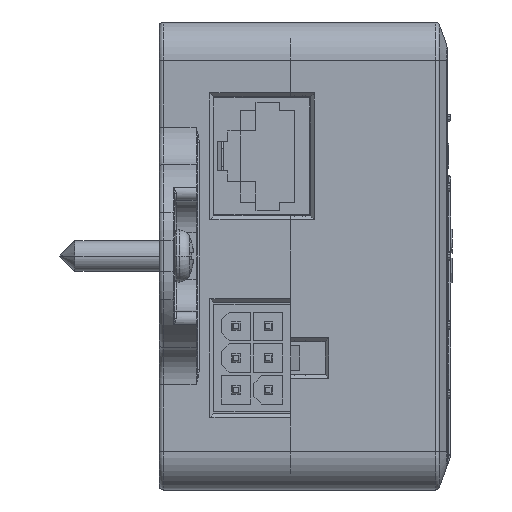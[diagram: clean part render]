
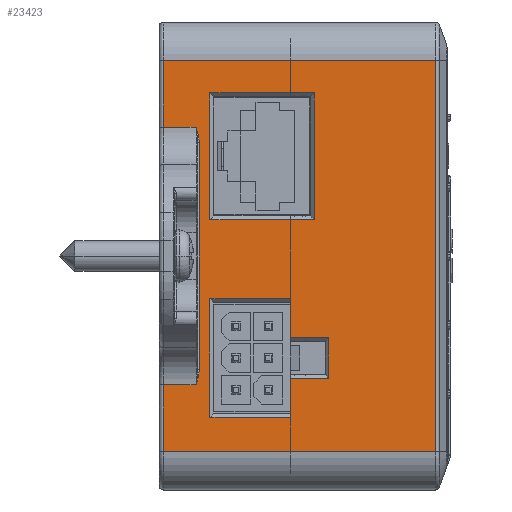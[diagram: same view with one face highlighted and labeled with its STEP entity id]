
A CAD part, left-side view. The second image highlights one B-rep face of the part: STEP entity #23423.
In plain terms, the highlighted planar face has unit normal (-1, 0, 0).
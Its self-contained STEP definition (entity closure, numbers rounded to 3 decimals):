
#929=DIRECTION('',(0.,0.,-1.));
#930=VECTOR('',#929,5.1);
#931=CARTESIAN_POINT('',(10.25,2.283,-40.55));
#932=LINE('',#931,#930);
#945=DIRECTION('',(0.,-1.,0.));
#946=VECTOR('',#945,10.5);
#947=CARTESIAN_POINT('',(10.25,12.783,-40.55));
#948=LINE('',#947,#946);
#953=DIRECTION('',(0.,0.,1.));
#954=VECTOR('',#953,15.5);
#955=CARTESIAN_POINT('',(10.25,12.783,-56.05));
#956=LINE('',#955,#954);
#1893=DIRECTION('',(0.,1.,0.));
#1894=VECTOR('',#1893,10.5);
#1895=CARTESIAN_POINT('',(10.25,2.283,-56.05));
#1896=LINE('',#1895,#1894);
#1901=DIRECTION('',(0.,0.,1.));
#1902=VECTOR('',#1901,5.1);
#1903=CARTESIAN_POINT('',(10.25,2.283,-56.05));
#1904=LINE('',#1903,#1902);
#1905=DIRECTION('',(0.,-1.,0.));
#1906=VECTOR('',#1905,16.6);
#1907=CARTESIAN_POINT('',(10.25,18.883,-9.5));
#1908=LINE('',#1907,#1906);
#1913=DIRECTION('',(0.,1.,0.));
#1914=VECTOR('',#1913,5.);
#1915=CARTESIAN_POINT('',(10.25,-2.717,-50.95));
#1916=LINE('',#1915,#1914);
#2001=DIRECTION('',(0.,-1.,0.));
#2002=VECTOR('',#2001,5.);
#2003=CARTESIAN_POINT('',(10.25,2.283,-45.65));
#2004=LINE('',#2003,#2002);
#2005=DIRECTION('',(0.,0.,-1.));
#2006=VECTOR('',#2005,5.3);
#2007=CARTESIAN_POINT('',(10.25,-2.717,-45.65));
#2008=LINE('',#2007,#2006);
#7942=DIRECTION('',(0.,-1.,0.));
#7943=VECTOR('',#7942,13.6);
#7944=CARTESIAN_POINT('',(10.25,12.783,-13.75));
#7945=LINE('',#7944,#7943);
#7950=DIRECTION('',(0.,0.,1.));
#7951=VECTOR('',#7950,16.5);
#7952=CARTESIAN_POINT('',(10.25,12.783,-30.25));
#7953=LINE('',#7952,#7951);
#8690=DIRECTION('',(0.,1.,0.));
#8691=VECTOR('',#8690,13.6);
#8692=CARTESIAN_POINT('',(10.25,-0.817,-30.25));
#8693=LINE('',#8692,#8691);
#8694=DIRECTION('',(0.,0.,-1.));
#8695=VECTOR('',#8694,16.5);
#8696=CARTESIAN_POINT('',(10.25,-0.817,-13.75));
#8697=LINE('',#8696,#8695);
#8727=DIRECTION('',(0.,-1.,0.));
#8728=VECTOR('',#8727,16.6);
#8729=CARTESIAN_POINT('',(10.25,18.883,-60.5));
#8730=LINE('',#8729,#8728);
#8731=DIRECTION('',(0.,-1.,0.));
#8732=VECTOR('',#8731,18.912);
#8733=CARTESIAN_POINT('',(10.25,2.283,-60.5));
#8734=LINE('',#8733,#8732);
#8955=DIRECTION('',(0.,1.,0.));
#8956=VECTOR('',#8955,18.912);
#8957=CARTESIAN_POINT('',(10.25,-16.629,-9.5));
#8958=LINE('',#8957,#8956);
#8973=DIRECTION('',(0.,0.,-1.));
#8974=VECTOR('',#8973,8.729);
#8975=CARTESIAN_POINT('',(10.25,18.883,-9.5));
#8976=LINE('',#8975,#8974);
#9001=DIRECTION('',(0.,-1.,0.));
#9002=VECTOR('',#9001,4.3);
#9003=CARTESIAN_POINT('',(10.25,18.883,-18.23));
#9004=LINE('',#9003,#9002);
#9014=CARTESIAN_POINT('',(10.25,14.583,-18.23));
#9032=CARTESIAN_POINT('',(10.25,14.583,-18.23));
#9033=CARTESIAN_POINT('',(10.25,14.506,-18.482));
#9034=CARTESIAN_POINT('',(10.25,14.373,-18.967));
#9035=CARTESIAN_POINT('',(10.25,14.225,-19.612));
#9036=CARTESIAN_POINT('',(10.25,14.188,-20.028));
#9037=CARTESIAN_POINT('',(10.25,14.183,-20.23));
#9044=DIRECTION('',(0.,0.,-1.));
#9045=VECTOR('',#9044,29.541);
#9046=CARTESIAN_POINT('',(10.25,14.183,-20.23));
#9047=LINE('',#9046,#9045);
#9101=CARTESIAN_POINT('',(10.25,14.583,-51.771));
#9108=CARTESIAN_POINT('',(10.25,14.183,-49.771));
#9109=CARTESIAN_POINT('',(10.25,14.189,-49.975));
#9110=CARTESIAN_POINT('',(10.25,14.226,-50.395));
#9111=CARTESIAN_POINT('',(10.25,14.366,-51.004));
#9112=CARTESIAN_POINT('',(10.25,14.503,-51.505));
#9113=CARTESIAN_POINT('',(10.25,14.583,-51.771));
#9120=DIRECTION('',(0.,1.,0.));
#9121=VECTOR('',#9120,4.3);
#9122=CARTESIAN_POINT('',(10.25,14.583,-51.771));
#9123=LINE('',#9122,#9121);
#9134=DIRECTION('',(0.,0.,-1.));
#9135=VECTOR('',#9134,8.729);
#9136=CARTESIAN_POINT('',(10.25,18.883,-51.771));
#9137=LINE('',#9136,#9135);
#12575=DIRECTION('',(0.,0.,1.));
#12576=VECTOR('',#12575,51.);
#12577=CARTESIAN_POINT('',(10.25,-16.629,-60.5));
#12578=LINE('',#12577,#12576);
#17543=CARTESIAN_POINT('',(10.25,-0.817,-13.75));
#17544=VERTEX_POINT('',#17543);
#17545=CARTESIAN_POINT('',(10.25,2.283,-45.65));
#17546=CARTESIAN_POINT('',(10.25,-2.717,-45.65));
#17547=VERTEX_POINT('',#17545);
#17548=VERTEX_POINT('',#17546);
#17557=CARTESIAN_POINT('',(10.25,-2.717,-50.95));
#17558=VERTEX_POINT('',#17557);
#17559=CARTESIAN_POINT('',(10.25,2.283,-50.95));
#17560=VERTEX_POINT('',#17559);
#17953=CARTESIAN_POINT('',(10.25,-0.817,-30.25));
#17954=VERTEX_POINT('',#17953);
#17991=CARTESIAN_POINT('',(10.25,-16.629,-9.5));
#17993=VERTEX_POINT('',#17991);
#18013=CARTESIAN_POINT('',(10.25,-16.629,-60.5));
#18014=VERTEX_POINT('',#18013);
#18312=CARTESIAN_POINT('',(10.25,18.883,-9.5));
#18313=VERTEX_POINT('',#18312);
#18314=CARTESIAN_POINT('',(10.25,12.783,-56.05));
#18315=CARTESIAN_POINT('',(10.25,12.783,-40.55));
#18316=VERTEX_POINT('',#18314);
#18317=VERTEX_POINT('',#18315);
#18318=CARTESIAN_POINT('',(10.25,18.883,-51.771));
#18319=CARTESIAN_POINT('',(10.25,18.883,-60.5));
#18320=VERTEX_POINT('',#18318);
#18321=VERTEX_POINT('',#18319);
#18399=CARTESIAN_POINT('',(10.25,12.783,-30.25));
#18401=VERTEX_POINT('',#18399);
#18402=CARTESIAN_POINT('',(10.25,12.783,-13.75));
#18403=VERTEX_POINT('',#18402);
#19151=VERTEX_POINT('',#9014);
#19153=VERTEX_POINT('',#9037);
#19154=CARTESIAN_POINT('',(10.25,14.183,
-49.771));
#19155=VERTEX_POINT('',#19154);
#19170=VERTEX_POINT('',#9101);
#19201=CARTESIAN_POINT('',(10.25,18.883,-18.23));
#19202=VERTEX_POINT('',#19201);
#19771=CARTESIAN_POINT('',(10.25,2.283,-56.05));
#19772=VERTEX_POINT('',#19771);
#19941=CARTESIAN_POINT('',(10.25,2.283,-40.55));
#19942=VERTEX_POINT('',#19941);
#20253=CARTESIAN_POINT('',(10.25,2.283,-9.5));
#20254=VERTEX_POINT('',#20253);
#20265=CARTESIAN_POINT('',(10.25,2.283,-60.5));
#20266=VERTEX_POINT('',#20265);
#23369=CARTESIAN_POINT('',(10.25,-7.173,-35.));
#23370=DIRECTION('',(1.,0.,0.));
#23371=DIRECTION('',(0.,0.,1.));
#23372=AXIS2_PLACEMENT_3D('',#23369,#23370,#23371);
#23373=PLANE('',#23372);
#23375=ORIENTED_EDGE('',*,*,#23374,.F.);
#23377=ORIENTED_EDGE('',*,*,#23376,.F.);
#23379=ORIENTED_EDGE('',*,*,#23378,.F.);
#23381=ORIENTED_EDGE('',*,*,#23380,.F.);
#23383=ORIENTED_EDGE('',*,*,#23382,.F.);
#23385=ORIENTED_EDGE('',*,*,#23384,.F.);
#23387=ORIENTED_EDGE('',*,*,#23386,.F.);
#23389=ORIENTED_EDGE('',*,*,#23388,.F.);
#23391=ORIENTED_EDGE('',*,*,#23390,.F.);
#23393=ORIENTED_EDGE('',*,*,#23392,.T.);
#23395=ORIENTED_EDGE('',*,*,#23394,.F.);
#23397=ORIENTED_EDGE('',*,*,#23396,.F.);
#23398=EDGE_LOOP('',(#23375,#23377,#23379,#23381,#23383,#23385,#23387,#23389,
#23391,#23393,#23395,#23397));
#23399=FACE_OUTER_BOUND('',#23398,.F.);
#23400=ORIENTED_EDGE('',*,*,#21811,.F.);
#23401=ORIENTED_EDGE('',*,*,#21832,.F.);
#23402=ORIENTED_EDGE('',*,*,#21848,.F.);
#23403=ORIENTED_EDGE('',*,*,#23362,.F.);
#23404=ORIENTED_EDGE('',*,*,#23327,.T.);
#23406=ORIENTED_EDGE('',*,*,#23405,.F.);
#23408=ORIENTED_EDGE('',*,*,#23407,.F.);
#23410=ORIENTED_EDGE('',*,*,#23409,.F.);
#23411=EDGE_LOOP('',(#23400,#23401,#23402,#23403,#23404,#23406,#23408,#23410));
#23412=FACE_BOUND('',#23411,.F.);
#23414=ORIENTED_EDGE('',*,*,#23413,.F.);
#23416=ORIENTED_EDGE('',*,*,#23415,.F.);
#23418=ORIENTED_EDGE('',*,*,#23417,.F.);
#23420=ORIENTED_EDGE('',*,*,#23419,.F.);
#23421=EDGE_LOOP('',(#23414,#23416,#23418,#23420));
#23422=FACE_BOUND('',#23421,.F.);
#23423=ADVANCED_FACE('',(#23399,#23412,#23422),#23373,.F.);
#9038=B_SPLINE_CURVE_WITH_KNOTS('',3,(#9032,#9033,#9034,#9035,#9036,#9037),
.UNSPECIFIED.,.F.,.F.,(4,1,1,4),(0.,0.333,0.667,1.),
.UNSPECIFIED.);
#9114=B_SPLINE_CURVE_WITH_KNOTS('',3,(#9108,#9109,#9110,#9111,#9112,#9113),
.UNSPECIFIED.,.F.,.F.,(4,1,1,4),(0.,0.333,0.667,1.),
.UNSPECIFIED.);
#21811=EDGE_CURVE('',#19942,#17547,#932,.T.);
#21832=EDGE_CURVE('',#18317,#19942,#948,.T.);
#21848=EDGE_CURVE('',#18316,#18317,#956,.T.);
#23327=EDGE_CURVE('',#19772,#17560,#1904,.T.);
#23362=EDGE_CURVE('',#19772,#18316,#1896,.T.);
#23374=EDGE_CURVE('',#20266,#18014,#8734,.T.);
#23376=EDGE_CURVE('',#18321,#20266,#8730,.T.);
#23378=EDGE_CURVE('',#18320,#18321,#9137,.T.);
#23380=EDGE_CURVE('',#19170,#18320,#9123,.T.);
#23382=EDGE_CURVE('',#19155,#19170,#9114,.T.);
#23384=EDGE_CURVE('',#19153,#19155,#9047,.T.);
#23386=EDGE_CURVE('',#19151,#19153,#9038,.T.);
#23388=EDGE_CURVE('',#19202,#19151,#9004,.T.);
#23390=EDGE_CURVE('',#18313,#19202,#8976,.T.);
#23392=EDGE_CURVE('',#18313,#20254,#1908,.T.);
#23394=EDGE_CURVE('',#17993,#20254,#8958,.T.);
#23396=EDGE_CURVE('',#18014,#17993,#12578,.T.);
#23405=EDGE_CURVE('',#17558,#17560,#1916,.T.);
#23407=EDGE_CURVE('',#17548,#17558,#2008,.T.);
#23409=EDGE_CURVE('',#17547,#17548,#2004,.T.);
#23413=EDGE_CURVE('',#18403,#17544,#7945,.T.);
#23415=EDGE_CURVE('',#18401,#18403,#7953,.T.);
#23417=EDGE_CURVE('',#17954,#18401,#8693,.T.);
#23419=EDGE_CURVE('',#17544,#17954,#8697,.T.);
